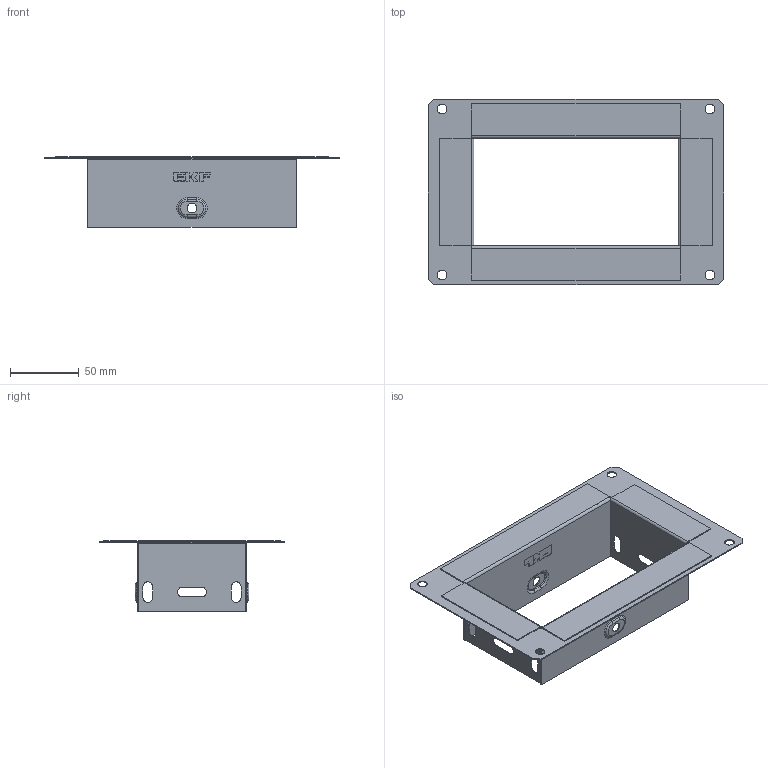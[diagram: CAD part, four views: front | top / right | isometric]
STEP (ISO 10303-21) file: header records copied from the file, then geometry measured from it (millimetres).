
FILE_DESCRIPTION (( 'STEP AP203' ), '1' );
FILE_NAME ('f80150_捘.STEP', '2020-01-23T12:27:59', ( '' ), ( '' ), 'SwSTEP 2.0', 'SolidWorks 2016', '' );
FILE_SCHEMA (( 'CONFIG_CONTROL_DESIGN' ));
Length unit declared in the file: millimetre
Products named in the file (9): f80100_3; f80150_1; f35150_2; f80150_捘
Assembly tree (5 placements, depth 2):
  f80100_3
  f80150_捘
    f80150_1
    f35150_2  x2
    f80100_3  x2
  f80150_1
  f35150_2
  f35150_2
Bounding box: 215 x 135 x 51.5 mm (x, y, z)
Volume: 40207.1 mm3; surface area: 102962.9 mm2
Topology: 5 solids, 5 shells, 314 faces, 816 edges, 528 vertices
Faces by surface type: plane 216, cylinder 64, bspline 18, torus 16
Entity records: 6402 total; most frequent: CARTESIAN_POINT 1382, ORIENTED_EDGE 876, DIRECTION 840, EDGE_CURVE 438, VECTOR 336, LINE 336, VERTEX_POINT 284, AXIS2_PLACEMENT_3D 252
